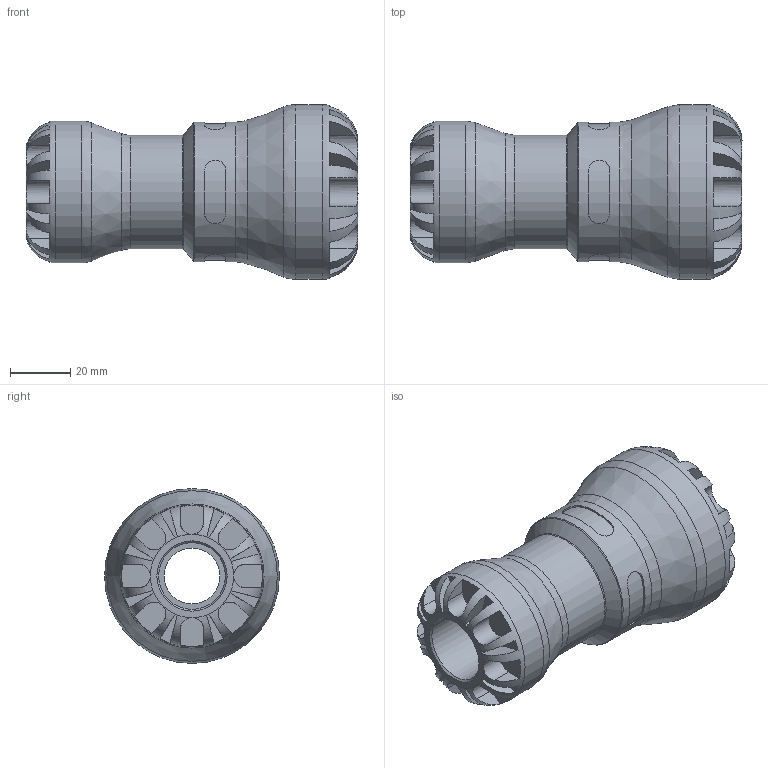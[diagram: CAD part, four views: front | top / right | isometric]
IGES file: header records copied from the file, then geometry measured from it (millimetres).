
Global section: file name: 1011Z0010007.ipt; native system: Autodesk Inventor 2019; preprocessor: unknown; author: KIM; date: 20210902.120324; units: inch
Bounding box: 109.98 x 57.91 x 57.91 mm (x, y, z)
Volume: 125005.7 mm3; surface area: 32047.6 mm2
Topology: 1 solids, 1 shells, 172 faces, 451 edges, 286 vertices
Faces by surface type: plane 108, revolution 37, cylinder 24, cone 3
Full cylindrical faces by diameter (mm): 37.592 x1, 46.33 x1, 46.99 x1, 57.912 x1
